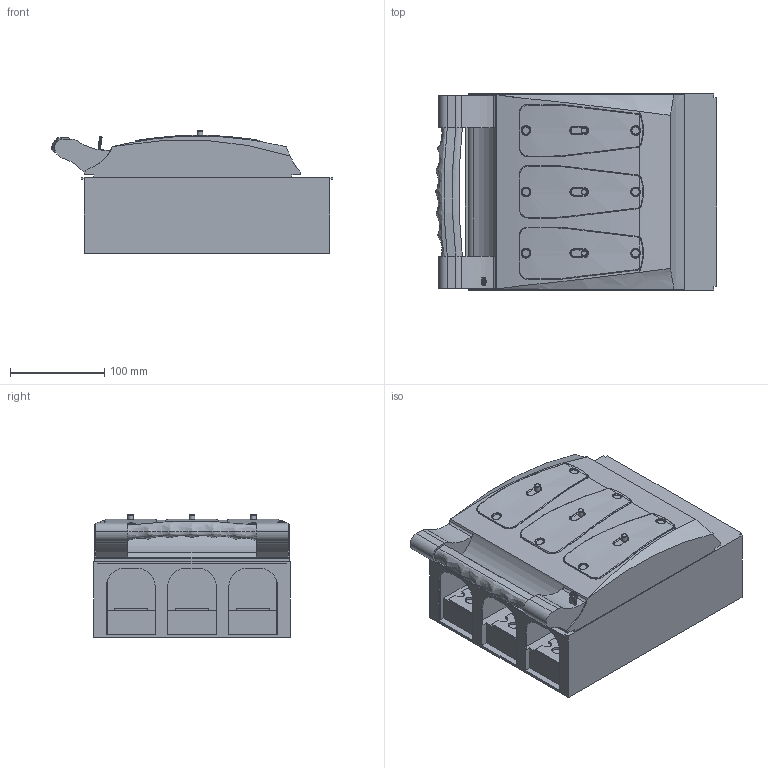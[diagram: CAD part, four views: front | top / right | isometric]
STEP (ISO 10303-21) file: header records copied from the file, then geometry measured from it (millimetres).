
FILE_DESCRIPTION(/* description */ (''),/* implementation_level */ '2;1');
FILE_NAME(/* name */ '335155_SECC 3P BS NH2 TORNILLO.stp',/* time_stamp */ '2021-11-05T14:34:26+01:00',/* author */ (''),/* organization */ (''),/* preprocessor_version */ 'ST-DEVELOPER v18.1',/* originating_system */ 'SIEMENS PLM Software NX 1992',/* authorisation */ '');
FILE_SCHEMA (('AUTOMOTIVE_DESIGN { 1 0 10303 214 3 1 1 1 }'));
Length unit declared in the file: millimetre
Products named in the file (1): 335155_SECC 3P BS NH2 TORNILLO
Bounding box: 297.76 x 208 x 129.8 mm (x, y, z)
Volume: 5223032.8 mm3; surface area: 314027.1 mm2
Topology: 1 solids, 1 shells, 553 faces, 1413 edges, 887 vertices
Faces by surface type: plane 194, cylinder 149, torus 133, cone 43, bspline 33, extrusion 1
Full cylindrical faces by diameter (mm): 6 x3, 11 x6
Entity records: 25535 total; most frequent: CARTESIAN_POINT 9767, ORIENTED_EDGE 2726, DIRECTION 1964, EDGE_CURVE 1363, VERTEX_POINT 868, AXIS2_PLACEMENT_3D 705, B_SPLINE_CURVE_WITH_KNOTS 626, EDGE_LOOP 614
